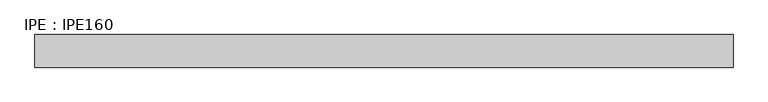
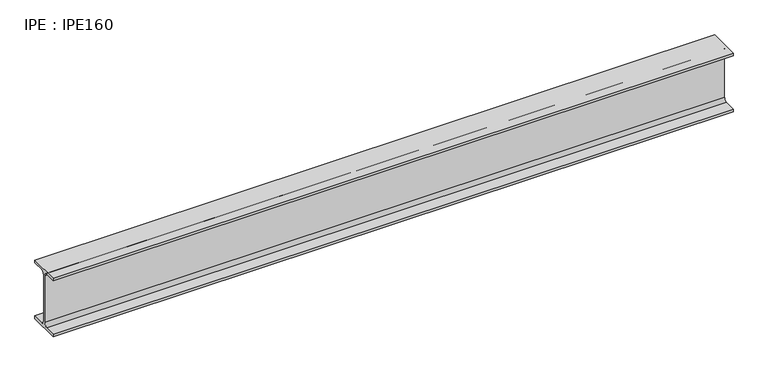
"""IFC4 building model written with IfcOpenShell, lengths in millimetres: beam geometry, IPE : IPE160."""

from ifc_helpers import new_model, si_unit, point, frame, frame_2d, origin, place, context, project, spatial, polyline, circle_curve, trimmed, segment, composite_curve, outline, extrude, source, transform, mapped, element, save


def ipe_ipe160_824561ff(model_context):
    return source(origin(), model_context, "Body", "SweptSolid", [
        extrude(outline(composite_curve([segment(polyline([(41.0, -72.6), (41.0, -80.0), (-41.0, -80.0), (-41.0, -72.6), (-11.5, -72.6)]), True, "CONTINUOUS"), segment(trimmed(circle_curve(frame_2d((-11.5, -63.6)), 9.0), [point((-11.5, -72.6))], [point((-2.5, -63.6))], True, "CARTESIAN"), True, "CONTINUOUS"), segment(polyline([(-2.5, -63.6), (-2.5, 63.6)]), True, "CONTINUOUS"), segment(trimmed(circle_curve(frame_2d((-11.5, 63.6)), 9.0), [point((-2.5, 63.6))], [point((-11.5, 72.6))], True, "CARTESIAN"), True, "CONTINUOUS"), segment(polyline([(-11.5, 72.6), (-41.0, 72.6), (-41.0, 80.0), (41.0, 80.0), (41.0, 72.6), (11.5, 72.6)]), True, "CONTINUOUS"), segment(trimmed(circle_curve(frame_2d((11.5, 63.6)), 9.0), [point((11.5, 72.6))], [point((2.5, 63.6))], True, "CARTESIAN"), True, "CONTINUOUS"), segment(polyline([(2.5, 63.6), (2.5, -63.6)]), True, "CONTINUOUS"), segment(trimmed(circle_curve(frame_2d((11.5, -63.6)), 9.0), [point((2.5, -63.6))], [point((11.5, -72.6))], True, "CARTESIAN"), True, "CONTINUOUS"), segment(polyline([(11.5, -72.6), (41.0, -72.6)]), True, "CONTINUOUS")], self_intersect=False)), frame((-840.3, 0.0, 0.0), z_axis=(1.0, 0.0, 0.0), x_axis=(0.0, 1.0, 0.0)), (0.0, 0.0, 1.0), 1755.1),
    ])


if __name__ == "__main__":
    model = new_model("IFC4")
    model_context = context("Model", 3, world=origin())
    ifc_project = project(units=[si_unit("LENGTHUNIT", "METRE", prefix="MILLI")], contexts=[model_context])
    site = spatial("IfcSite", under=ifc_project)
    building = spatial("IfcBuilding", under=site)
    placement = place(None, origin())
    ipe_ipe160_shape = ipe_ipe160_824561ff(model_context)
    element("IfcBeam", 1, ObjectType="IPE : IPE160", at=placement, inside=building, context=model_context, shape_type="MappedRepresentation", body=[
        mapped(ipe_ipe160_shape, transform((0.0, 0.0, 0.0), x_axis=(1.0, 0.0, 0.0), y_axis=(0.0, 1.0, 0.0), z_axis=(0.0, 0.0, 1.0))),
    ])
    save(model, "model.ifc")
